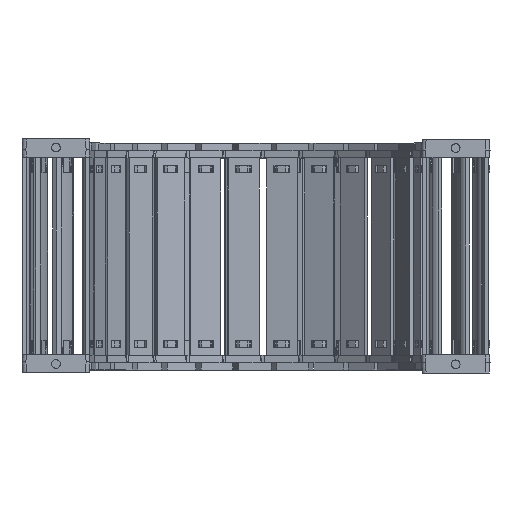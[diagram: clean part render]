
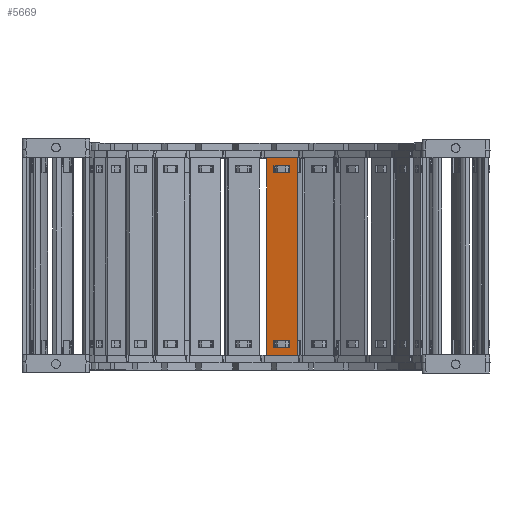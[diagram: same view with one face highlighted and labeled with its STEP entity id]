
A CAD part, top view. The second image highlights one B-rep face of the part: STEP entity #5669.
In plain terms, the highlighted planar face has unit normal (-0.182, 0, 0.983) as drawn and (0, 1, 0) by its records, which use the part's own axes.
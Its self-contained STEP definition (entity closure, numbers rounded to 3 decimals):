
#5089=DIRECTION('',(0.,0.,1.));
#5090=VECTOR('',#5089,15.8);
#5091=CARTESIAN_POINT('',(85.74,1.5,-7.9));
#5092=LINE('',#5091,#5090);
#5093=DIRECTION('',(-1.,0.,0.));
#5094=VECTOR('',#5093,100.5);
#5095=CARTESIAN_POINT('',(85.74,1.5,7.9));
#5096=LINE('',#5095,#5094);
#5097=DIRECTION('',(0.,0.,-1.));
#5098=VECTOR('',#5097,15.8);
#5099=CARTESIAN_POINT('',(-14.76,1.5,7.9));
#5100=LINE('',#5099,#5098);
#5101=DIRECTION('',(1.,0.,0.));
#5102=VECTOR('',#5101,3.648);
#5103=CARTESIAN_POINT('',(78.122,1.5,4.075));
#5104=LINE('',#5103,#5102);
#5105=DIRECTION('',(0.,0.,-1.));
#5106=VECTOR('',#5105,8.15);
#5107=CARTESIAN_POINT('',(81.77,1.5,4.075));
#5108=LINE('',#5107,#5106);
#5109=DIRECTION('',(-1.,0.,0.));
#5110=VECTOR('',#5109,3.648);
#5111=CARTESIAN_POINT('',(81.77,1.5,-4.075));
#5112=LINE('',#5111,#5110);
#5113=DIRECTION('',(0.,0.,-1.));
#5114=VECTOR('',#5113,8.15);
#5115=CARTESIAN_POINT('',(-7.142,1.5,4.075));
#5116=LINE('',#5115,#5114);
#5117=DIRECTION('',(-1.,0.,0.));
#5118=VECTOR('',#5117,3.648);
#5119=CARTESIAN_POINT('',(-7.142,1.5,-4.075));
#5120=LINE('',#5119,#5118);
#5121=DIRECTION('',(0.,0.,1.));
#5122=VECTOR('',#5121,8.15);
#5123=CARTESIAN_POINT('',(-10.79,1.5,-4.075));
#5124=LINE('',#5123,#5122);
#5125=DIRECTION('',(1.,0.,0.));
#5126=VECTOR('',#5125,3.648);
#5127=CARTESIAN_POINT('',(-10.79,1.5,4.075));
#5128=LINE('',#5127,#5126);
#5133=DIRECTION('',(-1.,0.,0.));
#5134=VECTOR('',#5133,100.5);
#5135=CARTESIAN_POINT('',(85.74,1.5,-7.9));
#5136=LINE('',#5135,#5134);
#5254=DIRECTION('',(0.,0.,-1.));
#5255=VECTOR('',#5254,8.15);
#5256=CARTESIAN_POINT('',(78.122,1.5,4.075));
#5257=LINE('',#5256,#5255);
#5439=CARTESIAN_POINT('',(81.77,1.5,4.075));
#5440=VERTEX_POINT('',#5439);
#5441=CARTESIAN_POINT('',(78.122,1.5,4.075));
#5442=VERTEX_POINT('',#5441);
#5483=CARTESIAN_POINT('',(78.122,1.5,-4.075));
#5484=VERTEX_POINT('',#5483);
#5485=CARTESIAN_POINT('',(81.77,1.5,-4.075));
#5486=VERTEX_POINT('',#5485);
#5487=CARTESIAN_POINT('',(85.74,1.5,7.9));
#5489=VERTEX_POINT('',#5487);
#5491=CARTESIAN_POINT('',(85.74,1.5,-7.9));
#5492=VERTEX_POINT('',#5491);
#5515=CARTESIAN_POINT('',(-7.142,1.5,4.075));
#5516=CARTESIAN_POINT('',(-7.142,1.5,-4.075));
#5517=VERTEX_POINT('',#5515);
#5518=VERTEX_POINT('',#5516);
#5519=CARTESIAN_POINT('',(-10.79,1.5,-4.075));
#5520=VERTEX_POINT('',#5519);
#5521=CARTESIAN_POINT('',(-10.79,1.5,4.075));
#5522=VERTEX_POINT('',#5521);
#5523=CARTESIAN_POINT('',(-14.76,1.5,7.9));
#5524=VERTEX_POINT('',#5523);
#5527=CARTESIAN_POINT('',(-14.76,1.5,-7.9));
#5528=VERTEX_POINT('',#5527);
#5638=CARTESIAN_POINT('',(117.48,1.5,10.061));
#5639=DIRECTION('',(0.,-1.,0.));
#5640=DIRECTION('',(0.,0.,-1.));
#5641=AXIS2_PLACEMENT_3D('',#5638,#5639,#5640);
#5642=PLANE('',#5641);
#5643=ORIENTED_EDGE('',*,*,#5577,.T.);
#5644=ORIENTED_EDGE('',*,*,#5603,.T.);
#5645=ORIENTED_EDGE('',*,*,#5616,.T.);
#5647=ORIENTED_EDGE('',*,*,#5646,.F.);
#5648=EDGE_LOOP('',(#5643,#5644,#5645,#5647));
#5649=FACE_OUTER_BOUND('',#5648,.F.);
#5651=ORIENTED_EDGE('',*,*,#5650,.F.);
#5652=ORIENTED_EDGE('',*,*,#5540,.T.);
#5654=ORIENTED_EDGE('',*,*,#5653,.T.);
#5656=ORIENTED_EDGE('',*,*,#5655,.T.);
#5657=EDGE_LOOP('',(#5651,#5652,#5654,#5656));
#5658=FACE_BOUND('',#5657,.F.);
#5660=ORIENTED_EDGE('',*,*,#5659,.T.);
#5662=ORIENTED_EDGE('',*,*,#5661,.T.);
#5664=ORIENTED_EDGE('',*,*,#5663,.T.);
#5666=ORIENTED_EDGE('',*,*,#5665,.T.);
#5667=EDGE_LOOP('',(#5660,#5662,#5664,#5666));
#5668=FACE_BOUND('',#5667,.F.);
#5669=ADVANCED_FACE('',(#5649,#5658,#5668),#5642,.F.);
#5540=EDGE_CURVE('',#5442,#5440,#5104,.T.);
#5577=EDGE_CURVE('',#5492,#5489,#5092,.T.);
#5603=EDGE_CURVE('',#5489,#5524,#5096,.T.);
#5616=EDGE_CURVE('',#5524,#5528,#5100,.T.);
#5646=EDGE_CURVE('',#5492,#5528,#5136,.T.);
#5650=EDGE_CURVE('',#5442,#5484,#5257,.T.);
#5653=EDGE_CURVE('',#5440,#5486,#5108,.T.);
#5655=EDGE_CURVE('',#5486,#5484,#5112,.T.);
#5659=EDGE_CURVE('',#5517,#5518,#5116,.T.);
#5661=EDGE_CURVE('',#5518,#5520,#5120,.T.);
#5663=EDGE_CURVE('',#5520,#5522,#5124,.T.);
#5665=EDGE_CURVE('',#5522,#5517,#5128,.T.);
